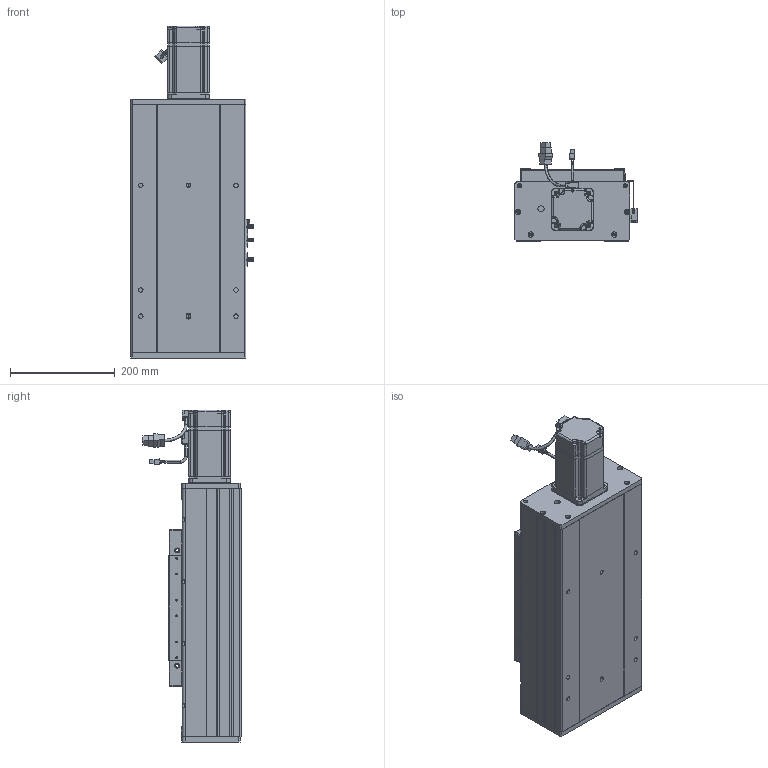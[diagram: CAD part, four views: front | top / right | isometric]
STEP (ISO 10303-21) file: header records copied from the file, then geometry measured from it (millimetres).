
FILE_DESCRIPTION (( 'STEP AP203' ), '1' );
FILE_NAME ('RY220F-L2525-300-MK.SLDASM_50.step', '2022-07-04T01:03:01', ( '' ), ( '' ), 'SwSTEP 2.0', 'SolidWorks 2016', '' );
FILE_SCHEMA (( 'CONFIG_CONTROL_DESIGN' ));
Length unit declared in the file: millimetre
Products named in the file (15): RY220F-672覜茼んえ; 怢湛750W_ECMA-CX0807ES; RY220Fヶ裔啣; RY220F-詩湍揤踡輸; RY220F菁釱MK-300_50; RY220电机支撑座FK20（PCD90M6）; RY220F綴裔啣; RY220F-祥凄詩湍-MK-300_50; 滅袉蝶18-20; RY220F-滅鳥奻裔; RY220F-奻裔啣-300_50; 滅袉蝶18-24; 覜茼ん672; RY220F臏賑釱25-32佪裝; RY220F-L2525-300-MK.SLDASM_50
Assembly tree (20 placements, depth 2):
  RY220F-L2525-300-MK.SLDASM_50
    RY220F菁釱MK-300_50
    RY220电机支撑座FK20（PCD90M6）
    RY220F-奻裔啣-300_50  x2
    怢湛750W_ECMA-CX0807ES
    RY220F臏賑釱25-32佪裝
    RY220F-滅鳥奻裔
    滅袉蝶18-20
    滅袉蝶18-24  x3
    RY220Fヶ裔啣
    RY220F綴裔啣
    RY220F-祥凄詩湍-MK-300_50
    RY220F-詩湍揤踡輸  x2
    覜茼ん672  x3
    RY220F-672覜茼んえ
Bounding box: 233.7 x 187.27 x 634.3 mm (x, y, z)
Volume: 6767636.7 mm3; surface area: 1551054.5 mm2
Topology: 21 solids, 21 shells, 2104 faces, 5798 edges, 3658 vertices
Faces by surface type: cylinder 932, plane 874, cone 239, bspline 33, sphere 16, torus 10
Entity records: 64814 total; most frequent: CARTESIAN_POINT 17821, ORIENTED_EDGE 9594, DIRECTION 9172, EDGE_CURVE 4797, AXIS2_PLACEMENT_3D 3228, VERTEX_POINT 3124, VECTOR 2716, LINE 2716
